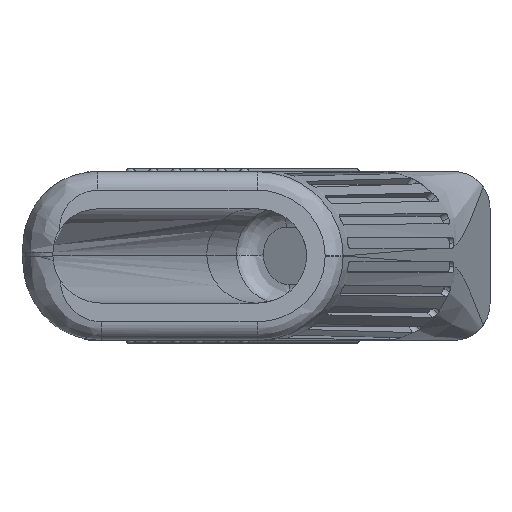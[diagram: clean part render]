
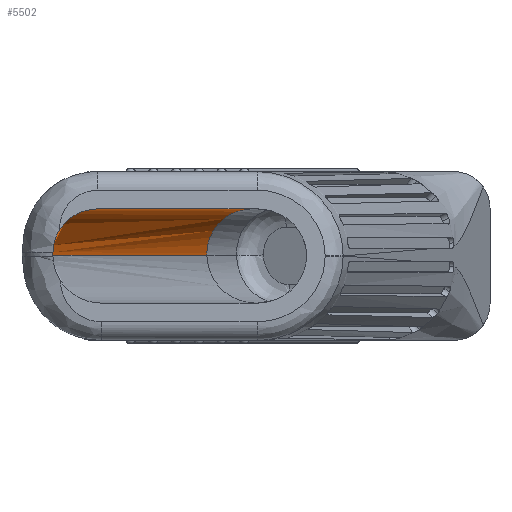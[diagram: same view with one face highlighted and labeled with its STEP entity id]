
A CAD part, front view. The second image highlights one B-rep face of the part: STEP entity #5502.
In plain terms, the highlighted free-form (B-spline) face has degree [3, 1] with [4, 2] control points.
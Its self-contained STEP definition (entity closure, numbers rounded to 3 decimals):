
#114 =( BOUNDED_CURVE ( )  B_SPLINE_CURVE ( 3, ( #2668, #7984, #5802, #8110 ),
 .UNSPECIFIED., .F., .F. ) 
 B_SPLINE_CURVE_WITH_KNOTS ( ( 4, 4 ),
 ( 0., 1. ),
 .UNSPECIFIED. ) 
 CURVE ( )  GEOMETRIC_REPRESENTATION_ITEM ( )  RATIONAL_B_SPLINE_CURVE ( ( 1., 1., 1., 1. ) ) 
 REPRESENTATION_ITEM ( '' )  );
#153 = VECTOR ( 'NONE', #7415, 1000. ) ;
#670 = CARTESIAN_POINT ( 'NONE',  ( -53.5, -109.288, 17.932 ) ) ;
#735 = CARTESIAN_POINT ( 'NONE',  ( -59.778, -109.287, 15.278 ) ) ;
#764 = CARTESIAN_POINT ( 'NONE',  ( -38.625, -30.742, 11.58 ) ) ;
#1052 = ORIENTED_EDGE ( 'NONE', *, *, #2856, .T. ) ;
#1209 = ORIENTED_EDGE ( 'NONE', *, *, #7315, .F. ) ;
#1365 = VERTEX_POINT ( 'NONE', #2081 ) ;
#1483 = LINE ( 'NONE', #6683, #153 ) ;
#1776 = ORIENTED_EDGE ( 'NONE', *, *, #6481, .T. ) ;
#1804 = CARTESIAN_POINT ( 'NONE',  ( -59.615, -109.078, 11.58 ) ) ;
#2081 = CARTESIAN_POINT ( 'NONE',  ( -58.688, -109.288, 15.106 ) ) ;
#2412 = CARTESIAN_POINT ( 'NONE',  ( -53.5, -109.288, 17.932 ) ) ;
#2654 = DIRECTION ( 'NONE',  ( 0., -1., 0. ) ) ;
#2668 = CARTESIAN_POINT ( 'NONE',  ( -38.625, -30.742, 11.938 ) ) ;
#2717 = CARTESIAN_POINT ( 'NONE',  ( -59.613, -109.078, 12.005 ) ) ;
#2748 = AXIS2_PLACEMENT_3D ( 'NONE', #9425, #7888, #7960 ) ;
#2825 = CARTESIAN_POINT ( 'NONE',  ( -59.613, -109.078, 12.005 ) ) ;
#2852 = CARTESIAN_POINT ( 'NONE',  ( -58.688, -109.288, 15.106 ) ) ;
#2856 = EDGE_CURVE ( 'NONE', #5025, #3668, #1483, .T. ) ;
#3308 = CARTESIAN_POINT ( 'NONE',  ( -32.454, -30.742, 17.932 ) ) ;
#3379 =( BOUNDED_SURFACE ( )  B_SPLINE_SURFACE ( 3, 1, ( 
 ( #670, #3791 ),
 ( #5998, #6706 ),
 ( #735, #9764 ),
 ( #9073, #5251 ) ),
 .UNSPECIFIED., .F., .F., .F. ) 
 B_SPLINE_SURFACE_WITH_KNOTS ( ( 4, 4 ),
 ( 2, 2 ),
 ( 0., 1. ),
 ( 0., 1. ),
 .UNSPECIFIED. ) 
 GEOMETRIC_REPRESENTATION_ITEM ( )  RATIONAL_B_SPLINE_SURFACE ( (
 ( 1., 1.),
 ( 0.798, 0.798),
 ( 0.798, 0.798),
 ( 1., 1.) ) ) 
 REPRESENTATION_ITEM ( '' )  SURFACE ( )  );
#3448 = EDGE_CURVE ( 'NONE', #5339, #1365, #6768, .T. ) ;
#3623 = CARTESIAN_POINT ( 'NONE',  ( -38.625, -30.742, 11.938 ) ) ;
#3668 = VERTEX_POINT ( 'NONE', #764 ) ;
#3791 = CARTESIAN_POINT ( 'NONE',  ( -32.454, -30.742, 17.932 ) ) ;
#3889 = B_SPLINE_CURVE_WITH_KNOTS ( 'NONE', 3,
 ( #7929, #4855, #9331, #6425 ),
 .UNSPECIFIED., .F., .F.,
 ( 4, 4 ),
 ( 0., 0. ),
 .UNSPECIFIED. ) ;
#4049 = CARTESIAN_POINT ( 'NONE',  ( -53.5, -109.288, 11.759 ) ) ;
#4094 = FACE_OUTER_BOUND ( 'NONE', #5759, .T. ) ;
#4346 = CARTESIAN_POINT ( 'NONE',  ( -58.984, -109.287, 14.646 ) ) ;
#4505 = EDGE_CURVE ( 'NONE', #9320, #4759, #7419, .T. ) ;
#4759 = VERTEX_POINT ( 'NONE', #3308 ) ;
#4855 = CARTESIAN_POINT ( 'NONE',  ( -59.619, -109.076, 11.722 ) ) ;
#4894 = VERTEX_POINT ( 'NONE', #3623 ) ;
#5025 = VERTEX_POINT ( 'NONE', #1804 ) ;
#5251 = CARTESIAN_POINT ( 'NONE',  ( -38.625, -30.742, 11.58 ) ) ;
#5339 = VERTEX_POINT ( 'NONE', #2825 ) ;
#5502 = ADVANCED_FACE ( 'NONE', ( #4094 ), #3379, .T. ) ;
#5542 = ORIENTED_EDGE ( 'NONE', *, *, #4505, .F. ) ;
#5635 = CIRCLE ( 'NONE', #7705, 6.173 ) ;
#5729 = CIRCLE ( 'NONE', #2748, 6.173 ) ;
#5759 = EDGE_LOOP ( 'NONE', ( #8545, #1209, #5542, #1776, #7446, #6281, #1052 ) ) ;
#5802 = CARTESIAN_POINT ( 'NONE',  ( -38.628, -30.741, 11.699 ) ) ;
#5998 = CARTESIAN_POINT ( 'NONE',  ( -57.2, -109.287, 17.932 ) ) ;
#6281 = ORIENTED_EDGE ( 'NONE', *, *, #6443, .F. ) ;
#6364 = DIRECTION ( 'NONE',  ( 1., 0., 0. ) ) ;
#6425 = CARTESIAN_POINT ( 'NONE',  ( -59.613, -109.078, 12.005 ) ) ;
#6443 = EDGE_CURVE ( 'NONE', #5025, #5339, #3889, .T. ) ;
#6481 = EDGE_CURVE ( 'NONE', #9320, #1365, #5635, .T. ) ;
#6629 = CARTESIAN_POINT ( 'NONE',  ( -59.21, -109.246, 14.143 ) ) ;
#6683 = CARTESIAN_POINT ( 'NONE',  ( -59.671, -109.288, 11.58 ) ) ;
#6706 = CARTESIAN_POINT ( 'NONE',  ( -36.154, -30.742, 17.932 ) ) ;
#6768 = B_SPLINE_CURVE_WITH_KNOTS ( 'NONE', 3,
 ( #2717, #8837, #7265, #6629, #4346, #2852 ),
 .UNSPECIFIED., .F., .F.,
 ( 4, 2, 4 ),
 ( 0., 0.002, 0.003 ),
 .UNSPECIFIED. ) ;
#7265 = CARTESIAN_POINT ( 'NONE',  ( -59.514, -109.144, 13.096 ) ) ;
#7315 = EDGE_CURVE ( 'NONE', #4759, #4894, #5729, .T. ) ;
#7415 = DIRECTION ( 'NONE',  ( 0.259, 0.966, 0. ) ) ;
#7419 = LINE ( 'NONE', #8151, #8734 ) ;
#7446 = ORIENTED_EDGE ( 'NONE', *, *, #3448, .F. ) ;
#7705 = AXIS2_PLACEMENT_3D ( 'NONE', #4049, #2654, #6364 ) ;
#7888 = DIRECTION ( 'NONE',  ( 0., -1., 0. ) ) ;
#7929 = CARTESIAN_POINT ( 'NONE',  ( -59.615, -109.078, 11.58 ) ) ;
#7960 = DIRECTION ( 'NONE',  ( 1., 0., 0. ) ) ;
#7984 = CARTESIAN_POINT ( 'NONE',  ( -38.628, -30.741, 11.819 ) ) ;
#8031 = EDGE_CURVE ( 'NONE', #4894, #3668, #114, .T. ) ;
#8110 = CARTESIAN_POINT ( 'NONE',  ( -38.625, -30.742, 11.58 ) ) ;
#8151 = CARTESIAN_POINT ( 'NONE',  ( -53.5, -109.288, 17.932 ) ) ;
#8545 = ORIENTED_EDGE ( 'NONE', *, *, #8031, .F. ) ;
#8734 = VECTOR ( 'NONE', #8924, 1000. ) ;
#8837 = CARTESIAN_POINT ( 'NONE',  ( -59.592, -109.084, 12.553 ) ) ;
#8924 = DIRECTION ( 'NONE',  ( 0.259, 0.966, 0. ) ) ;
#9073 = CARTESIAN_POINT ( 'NONE',  ( -59.671, -109.288, 11.58 ) ) ;
#9320 = VERTEX_POINT ( 'NONE', #2412 ) ;
#9331 = CARTESIAN_POINT ( 'NONE',  ( -59.618, -109.077, 11.863 ) ) ;
#9425 = CARTESIAN_POINT ( 'NONE',  ( -32.454, -30.742, 11.759 ) ) ;
#9764 = CARTESIAN_POINT ( 'NONE',  ( -38.732, -30.742, 15.278 ) ) ;
